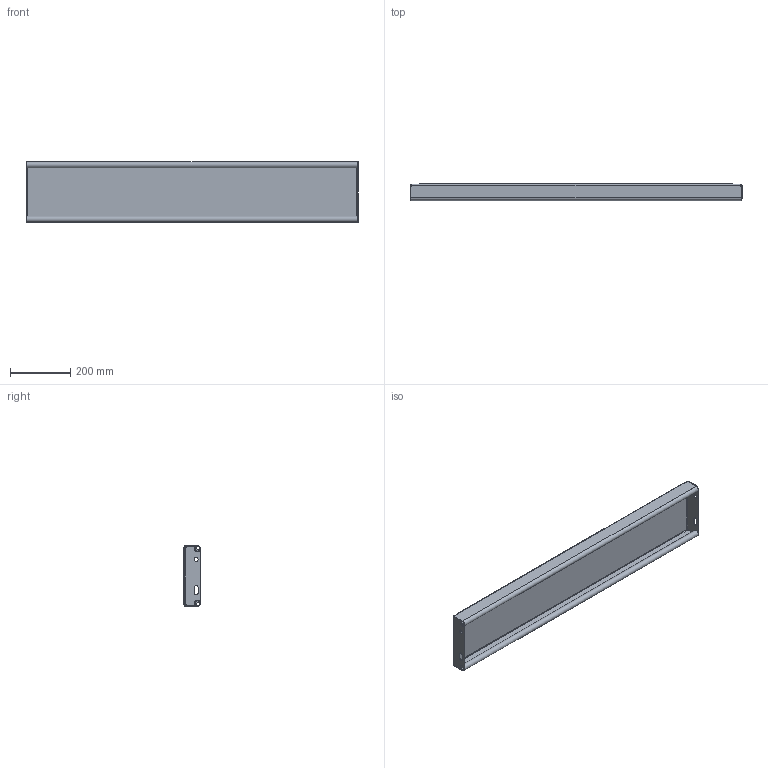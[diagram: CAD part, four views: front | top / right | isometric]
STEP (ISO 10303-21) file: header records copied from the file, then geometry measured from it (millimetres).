
FILE_DESCRIPTION (( 'STEP AP214' ), '1' );
FILE_NAME ('OPTIMO-Tread-Achil-O2-1100x200x57x2-st240-F100180100-plain.STEP', '2021-03-15T10:28:10', ( '' ), ( '' ), 'SwSTEP 2.0', 'SolidWorks 2021', '' );
FILE_SCHEMA (( 'AUTOMOTIVE_DESIGN' ));
Length unit declared in the file: millimetre
Products named in the file (1): OPTIMO-Tread-Achil-O2-1100x200x57x2-st240-F100180100-plain
Bounding box: 1100 x 57 x 200 mm (x, y, z)
Volume: 1467909.1 mm3; surface area: 883308.4 mm2
Topology: 1 solids, 1 shells, 248 faces, 640 edges, 412 vertices
Faces by surface type: plane 173, bspline 39, cylinder 36
Entity records: 9924 total; most frequent: CARTESIAN_POINT 4092, ORIENTED_EDGE 1280, DIRECTION 1022, EDGE_CURVE 640, VECTOR 490, LINE 490, VERTEX_POINT 412, EDGE_LOOP 274
